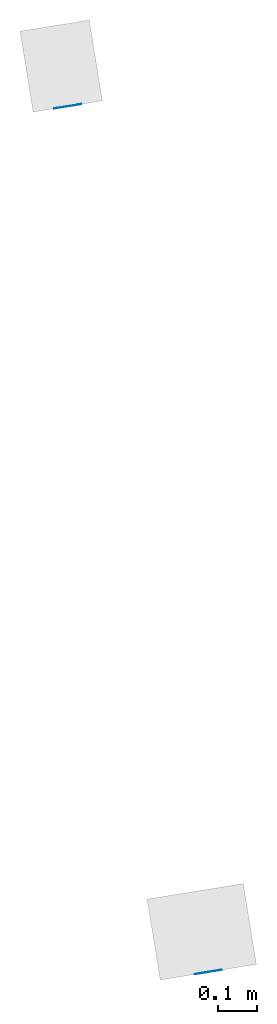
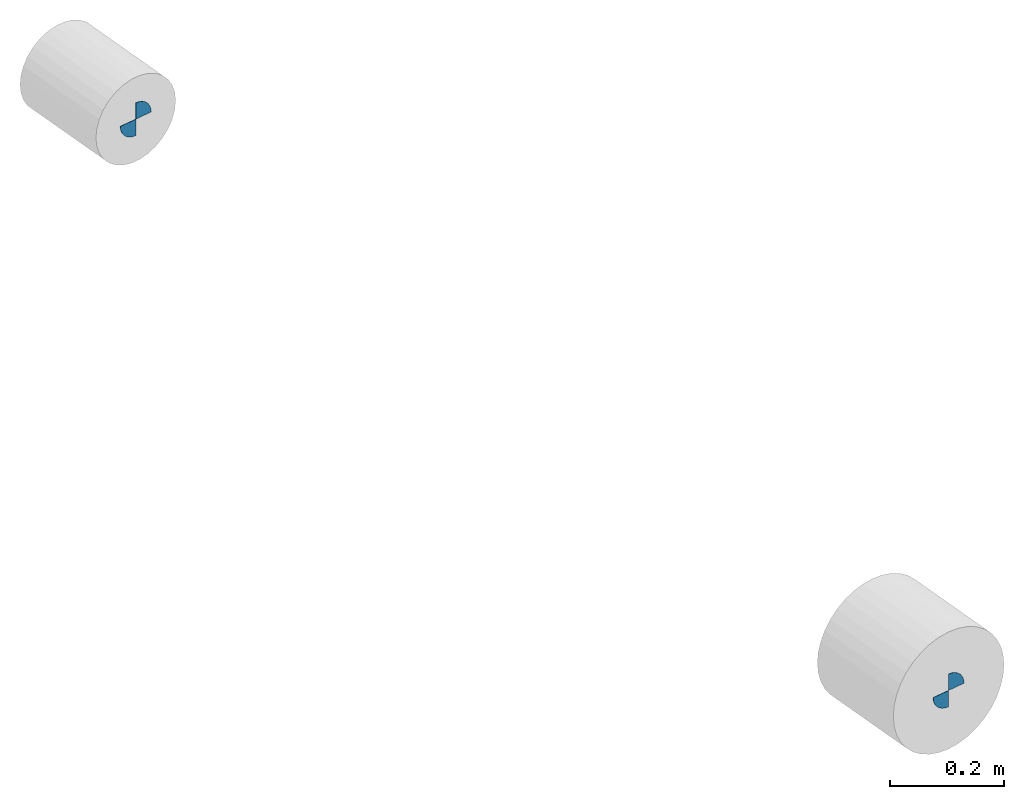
# One storey, part 1 of 2: 2 slabs.
"""IFC2X3 building model written with IfcOpenShell, lengths in millimetres."""

import ifcopenshell
import ifcopenshell.guid

model = None  # the IFC model being written
_history = None  # IfcOwnerHistory: only IFC2X3 demands one
_inside = {}  # id of a spatial element -> (the spatial element, [elements in it])
_under = {}  # id of a project, library or spatial element -> (it, [spatial elements below it])
_declared = {}  # id of a project -> (the project, [libraries it declares])
_typed = {}  # id of a type object -> (the type object, [elements of that type])
_made_of = {}  # id of a material, layer set ... -> (it, [elements and type objects made of it])


def new_model(schema):
    """Start an empty IFC model of exactly this schema.

    Asked for "IFC4X3", IfcOpenShell would pick the latest addendum, in which some entities
    have other attributes; the version numbers below select the first issue.
    IFC2X3 requires an IfcOwnerHistory on every rooted entity: one is made here for all.
    """
    global model, _history
    if schema == "IFC4X3":
        model = ifcopenshell.file(schema_version=(4, 3, 0, 0))
    else:
        model = ifcopenshell.file(schema=schema)
    _inside.clear()
    _under.clear()
    _declared.clear()
    _typed.clear()
    _made_of.clear()
    _history = None
    if model.schema == "IFC2X3":
        org = make("IfcOrganization", Name="unknown")
        user = make(
            "IfcPersonAndOrganization",
            ThePerson=make("IfcPerson", FamilyName="unknown"),
            TheOrganization=org,
        )
        app = make(
            "IfcApplication",
            ApplicationDeveloper=org,
            Version="unknown",
            ApplicationFullName="unknown",
            ApplicationIdentifier="unknown",
        )
        _history = make(
            "IfcOwnerHistory",
            OwningUser=user,
            OwningApplication=app,
            ChangeAction="ADDED",
            CreationDate=0,
        )
    return model


def make(cls, **values):
    """One entity of the class cls with the attributes given. An attribute that is None is left unset."""
    return model.create_entity(
        cls, **{name: value for name, value in values.items() if value is not None}
    )


def entity(cls, *values):
    """Any entity or typed value of the class cls, its attributes in the order of the schema. None: left unset."""
    e = model.create_entity(cls)
    for i, value in enumerate(values):
        if value is not None:
            e[i] = value
    return e


def rooted(cls, **values):
    """An entity with a GlobalId (a new one), such as an element, a storey or a relation."""
    return make(cls, GlobalId=ifcopenshell.guid.new(), OwnerHistory=_history, **values)


def si_unit(unit_type, name, prefix=None):
    """IfcSIUnit, for example si_unit("LENGTHUNIT", "METRE", prefix="MILLI")."""
    return make("IfcSIUnit", UnitType=unit_type, Prefix=prefix, Name=name)


def converted_unit(unit_type, name, factor, base, dimensions=None, offset=None):
    """IfcConversionBasedUnit, such as the inch: factor (a typed value) times the base unit."""
    return make(
        "IfcConversionBasedUnit"
        if offset is None
        else "IfcConversionBasedUnitWithOffset",
        ConversionOffset=offset,
        Dimensions=None
        if dimensions is None
        else entity("IfcDimensionalExponents", *dimensions),
        UnitType=unit_type,
        Name=name,
        ConversionFactor=make(
            "IfcMeasureWithUnit", ValueComponent=factor, UnitComponent=base
        ),
    )


def derived_unit(unit_type, elements):
    """IfcDerivedUnit: a product of units, each with its exponent."""
    return make(
        "IfcDerivedUnit",
        Elements=[
            make("IfcDerivedUnitElement", Unit=unit, Exponent=power)
            for unit, power in elements
        ],
        UnitType=unit_type,
    )


def assignment(units):
    """IfcUnitAssignment: the units of a project."""
    return None if units is None else make("IfcUnitAssignment", Units=units)


def point(xyz):
    """IfcCartesianPoint."""
    return None if xyz is None else make("IfcCartesianPoint", Coordinates=xyz)


def direction(xyz):
    """IfcDirection."""
    return None if xyz is None else make("IfcDirection", DirectionRatios=xyz)


def frame(location, z_axis=None, x_axis=None):
    """IfcAxis2Placement3D, a coordinate frame: its origin and axes. An axis left out is left unset."""
    return make(
        "IfcAxis2Placement3D",
        Location=point(location),
        Axis=direction(z_axis),
        RefDirection=direction(x_axis),
    )


def frame_2d(location, x_axis=None):
    """IfcAxis2Placement2D, a coordinate frame in the plane: its origin and x axis."""
    return make(
        "IfcAxis2Placement2D", Location=point(location), RefDirection=direction(x_axis)
    )


def origin():
    """The frame at (0, 0, 0) with its axes left unset."""
    return frame((0.0, 0.0, 0.0))


def origin_with_axes():
    """The frame at (0, 0, 0) with the z axis (0, 0, 1) and the x axis (1, 0, 0) written out."""
    return frame((0.0, 0.0, 0.0), z_axis=(0.0, 0.0, 1.0), x_axis=(1.0, 0.0, 0.0))


def place(relative_to, where):
    """IfcLocalPlacement: puts the frame where relative to a parent placement (None: the world)."""
    return make(
        "IfcLocalPlacement", PlacementRelTo=relative_to, RelativePlacement=where
    )


def context(
    kind, dimensions, precision=None, world=None, true_north=None, identifier=None
):
    """IfcGeometricRepresentationContext, for example the 3D "Model" context."""
    return make(
        "IfcGeometricRepresentationContext",
        ContextIdentifier=identifier,
        ContextType=kind,
        CoordinateSpaceDimension=dimensions,
        Precision=precision,
        WorldCoordinateSystem=world,
        TrueNorth=true_north,
    )


def subcontext(parent, identifier, kind, view, scale=None):
    """IfcGeometricRepresentationSubContext, for example "Body" below "Model"."""
    return make(
        "IfcGeometricRepresentationSubContext",
        ContextIdentifier=identifier,
        ContextType=kind,
        ParentContext=parent,
        TargetScale=scale,
        TargetView=view,
    )


def project(units=None, contexts=None):
    """IfcProject with its units and contexts."""
    return rooted(
        "IfcProject",
        Name="project",
        RepresentationContexts=contexts,
        UnitsInContext=assignment(units),
    )


def spatial(cls, under=None, at=None, **own):
    """A site, building, storey or space (cls), placed at a placement, below another one or the project."""
    s = rooted(cls, ObjectPlacement=at, **own)
    if under is not None:
        _under.setdefault(under.id(), (under, []))[1].append(s)
    return s


def polyline(points):
    """IfcPolyline through the points."""
    return make("IfcPolyline", Points=[point(p) for p in points])


def circle_curve(where, radius):
    """IfcCircle in the frame where."""
    return make("IfcCircle", Position=where, Radius=radius)


def parameter(value):
    """IfcParameterValue: where a trimmed curve begins or ends, as a parameter of its basis curve."""
    return model.create_entity("IfcParameterValue", value)


def trimmed(basis, trim1, trim2, sense, master):
    """IfcTrimmedCurve: the piece of a basis curve between two trims."""
    return make(
        "IfcTrimmedCurve",
        BasisCurve=basis,
        Trim1=trim1,
        Trim2=trim2,
        SenseAgreement=sense,
        MasterRepresentation=master,
    )


def segment(curve, same_sense, transition):
    """IfcCompositeCurveSegment."""
    return make(
        "IfcCompositeCurveSegment",
        Transition=transition,
        SameSense=same_sense,
        ParentCurve=curve,
    )


def composite_curve(segments, self_intersect=None):
    """IfcCompositeCurve: segments joined end to end."""
    return make("IfcCompositeCurve", Segments=segments, SelfIntersect=self_intersect)


def outline(outer, holes=None, kind="AREA"):
    """IfcArbitraryClosedProfileDef: a profile drawn as a closed curve; with holes, ...WithVoids."""
    if holes is None:
        return make("IfcArbitraryClosedProfileDef", ProfileType=kind, OuterCurve=outer)
    return make(
        "IfcArbitraryProfileDefWithVoids",
        ProfileType=kind,
        OuterCurve=outer,
        InnerCurves=holes,
    )


def extrude(swept, where, along, depth):
    """IfcExtrudedAreaSolid: the profile swept, set in the frame where, extruded along a direction by depth."""
    return make(
        "IfcExtrudedAreaSolid",
        SweptArea=swept,
        Position=where,
        ExtrudedDirection=direction(along),
        Depth=depth,
    )


def shape(context_of_items, identifier, shape_type, items):
    """IfcShapeRepresentation: the items that make up one representation, for example the "Body"."""
    return make(
        "IfcShapeRepresentation",
        ContextOfItems=context_of_items,
        RepresentationIdentifier=identifier,
        RepresentationType=shape_type,
        Items=items,
    )


def material(Name=None, Category=None):
    """IfcMaterial."""
    return make("IfcMaterial", Name=Name, Category=Category)


def made_of(thing, what):
    """Note that an element or type object is made of a material, layer set ...; save() writes the relation."""
    if what is not None:
        _made_of.setdefault(what.id(), (what, []))[1].append(thing)
    return thing


def type_object(cls, material=None, **own):
    """A type object (cls), such as IfcWallType, which elements share."""
    return made_of(rooted(cls, **own), material)


def element(
    cls,
    number,
    at=None,
    inside=None,
    cuts=None,
    type_object=None,
    material=None,
    context=None,
    identifier="Body",
    shape_type=None,
    held_by="IfcProductDefinitionShape",
    body=None,
    shapes=None,
    **own,
):
    """One element of the class cls, such as IfcWall. Its Tag is "e" and its number.

    at: its placement. inside: the storey or other place that contains it. cuts: it is an
    opening in that element (IfcRelVoidsElement). A single representation is given by context,
    identifier, shape_type and body (its items); several are given by shapes. held_by: the class
    of the entity that holds the representations. save() writes the other relations.
    """
    e = rooted(cls, Tag="e%d" % number, ObjectPlacement=at, **own)
    if body is not None:
        shapes = [shape(context, identifier, shape_type, body)]
    if shapes is not None:
        e.Representation = make(held_by, Representations=shapes)
    if inside is not None:
        _inside.setdefault(inside.id(), (inside, []))[1].append(e)
    if cuts is not None:
        rooted(
            "IfcRelVoidsElement", RelatingBuildingElement=cuts, RelatedOpeningElement=e
        )
    if type_object is not None:
        _typed.setdefault(type_object.id(), (type_object, []))[1].append(e)
    return made_of(e, material)


def aggregate(whole, parts):
    """IfcRelAggregates: a whole, such as a stair, and the parts it consists of."""
    return rooted("IfcRelAggregates", RelatingObject=whole, RelatedObjects=parts)


def save(model, path):
    """Write the relations noted so far, then the file.

    IfcRelAggregates (storeys below a building ...), IfcRelContainedInSpatialStructure (elements
    in a storey), IfcRelDefinesByType, IfcRelAssociatesMaterial and IfcRelDeclares: one each for
    every whole, place, type object, material and project.
    """
    for whole, parts in _under.values():
        aggregate(whole, parts)
    for where, things in _inside.values():
        rooted(
            "IfcRelContainedInSpatialStructure",
            RelatedElements=things,
            RelatingStructure=where,
        )
    for kind, things in _typed.values():
        rooted("IfcRelDefinesByType", RelatedObjects=things, RelatingType=kind)
    for what, things in _made_of.values():
        rooted("IfcRelAssociatesMaterial", RelatedObjects=things, RelatingMaterial=what)
    for by, libraries in _declared.values():
        rooted("IfcRelDeclares", RelatingContext=by, RelatedDefinitions=libraries)
    model.write(path)


model = new_model("IFC2X3")

# Units and contexts
plan_context = context("Plan", 3, precision=1e-05, world=origin_with_axes())
model_context = context("Model", 3, precision=0.01, world=origin(), true_north=direction((6.12323399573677e-17, 1.0)))
body_context = subcontext(model_context, "Body", "Model", "MODEL_VIEW")
ifc_project = project(units=[converted_unit("PLANEANGLEUNIT", "DEGREE", entity("IfcPositiveLengthMeasure", 0.0174532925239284), si_unit("PLANEANGLEUNIT", "RADIAN"), dimensions=[0, 0, 0, 0, 0, 0, 0]), si_unit("AREAUNIT", "SQUARE_METRE"), si_unit("LENGTHUNIT", "METRE", prefix="MILLI"), si_unit("MASSUNIT", "GRAM", prefix="KILO"), si_unit("POWERUNIT", "WATT"), si_unit("PRESSUREUNIT", "PASCAL", prefix="KILO"), si_unit("FORCEUNIT", "NEWTON", prefix="KILO"), si_unit("ELECTRICVOLTAGEUNIT", "VOLT"), si_unit("ELECTRICCURRENTUNIT", "AMPERE"), si_unit("THERMODYNAMICTEMPERATUREUNIT", "DEGREE_CELSIUS"), si_unit("TIMEUNIT", "SECOND"), si_unit("VOLUMEUNIT", "CUBIC_METRE"), derived_unit("LINEARVELOCITYUNIT", [(si_unit("LENGTHUNIT", "METRE"), 1), (si_unit("TIMEUNIT", "SECOND"), -1)]), derived_unit("VOLUMETRICFLOWRATEUNIT", [(si_unit("VOLUMEUNIT", "CUBIC_METRE"), 1), (si_unit("TIMEUNIT", "SECOND"), -1)]), derived_unit("THERMALTRANSMITTANCEUNIT", [(si_unit("POWERUNIT", "WATT"), 1), (si_unit("THERMODYNAMICTEMPERATUREUNIT", "KELVIN"), -1), (si_unit("AREAUNIT", "SQUARE_METRE"), -1)]), derived_unit("SOUNDPRESSUREUNIT", [(si_unit("PRESSUREUNIT", "PASCAL"), 1)])], contexts=[model_context, plan_context])

# Site, building, storey
site_placement = place(None, frame((-0.00071070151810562, 0.00438415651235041, 0.0), z_axis=(0.0, 0.0, 1.0), x_axis=(-0.160236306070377, 0.987078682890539, 0.0)))
site = spatial("IfcSite", under=ifc_project, at=site_placement, Name="Default", CompositionType="ELEMENT")
building_placement = place(site_placement, origin_with_axes())
building = spatial("IfcBuilding", under=site, at=building_placement, CompositionType="ELEMENT")
storey_placement = place(building_placement, frame((0.0, 0.0, 42100.0000000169), z_axis=(0.0, 0.0, 1.0), x_axis=(1.0, 0.0, 0.0)))
storey = spatial("IfcBuildingStorey", under=building, at=storey_placement, Name="Nivå A", CompositionType="ELEMENT", Elevation=42100.0000000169)

# Slabs
ifc_material = material(Name="Black")
slab_type = type_object("IfcSlabType", Name="SurveyMarker:Custom", PredefinedType="BASESLAB", material=ifc_material)
slab_1_placement = place(storey_placement, origin_with_axes())
element("IfcSlab", 1, at=slab_1_placement, inside=storey, type_object=slab_type, Name="SurveyMarker:Custom", ObjectType="SurveyMarker:Custom", PredefinedType="BASESLAB", context=body_context, shape_type="SweptSolid", body=[
    extrude(outline(composite_curve([segment(polyline([(-11.6666666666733, -11.6666666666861), (23.3333333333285, -11.6666666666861)]), True, "CONTINUOUS"), segment(trimmed(circle_curve(frame_2d((-11.6666666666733, -11.6666666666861), x_axis=(0.0, 1.0)), 35.0), [parameter(269.999999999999)], [parameter(359.999999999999)], True, "PARAMETER"), True, "CONTINUOUS"), segment(polyline([(-11.6666666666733, 23.3333333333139), (-11.6666666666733, -11.6666666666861)]), True, "CONTINUOUS")], self_intersect=False)), frame((766674.11965436, -504774.438601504, 15941.6666666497), z_axis=(1.0, 0.0, 0.0), x_axis=(0.0, 0.0, 1.0)), (0.0, 0.0, 1.0), 0.800000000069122),
    extrude(outline(composite_curve([segment(polyline([(-11.6666666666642, -11.6666666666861), (23.3333333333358, -11.6666666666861)]), True, "CONTINUOUS"), segment(trimmed(circle_curve(frame_2d((-11.6666666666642, -11.6666666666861), x_axis=(0.0, 1.0)), 35.0), [parameter(269.999999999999)], [parameter(359.999999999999)], True, "PARAMETER"), True, "CONTINUOUS"), segment(polyline([(-11.6666666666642, 23.3333333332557), (-11.6666666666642, -11.6666666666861)]), True, "CONTINUOUS")], self_intersect=False)), frame((766674.11965436, -504751.105268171, 15918.3333333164), z_axis=(1.0, 0.0, 0.0), x_axis=(0.0, 0.0, -1.0)), (0.0, 0.0, 1.0), 0.800000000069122),
])
slab_2_placement = place(storey_placement, origin_with_axes())
element("IfcSlab", 2, at=slab_2_placement, inside=storey, type_object=slab_type, Name="SurveyMarker:Custom", ObjectType="SurveyMarker:Custom", PredefinedType="BASESLAB", context=body_context, shape_type="SweptSolid", body=[
    extrude(outline(composite_curve([segment(polyline([(-11.6666666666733, -11.6666666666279), (23.3333333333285, -11.6666666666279)]), True, "CONTINUOUS"), segment(trimmed(circle_curve(frame_2d((-11.6666666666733, -11.6666666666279), x_axis=(0.0, 1.0)), 35.0), [parameter(269.999999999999)], [parameter(359.999999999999)], True, "PARAMETER"), True, "CONTINUOUS"), segment(polyline([(-11.6666666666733, 23.3333333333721), (-11.6666666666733, -11.6666666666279)]), True, "CONTINUOUS")], self_intersect=False)), frame((768922.619644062, -504774.438601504, 15941.6666666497), z_axis=(1.0, 0.0, 0.0), x_axis=(0.0, 0.0, 1.0)), (0.0, 0.0, 1.0), 0.800000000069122),
    extrude(outline(composite_curve([segment(polyline([(-11.6666666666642, -11.6666666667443), (23.3333333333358, -11.6666666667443)]), True, "CONTINUOUS"), segment(trimmed(circle_curve(frame_2d((-11.6666666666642, -11.6666666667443), x_axis=(0.0, 1.0)), 35.0), [parameter(269.999999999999)], [parameter(359.999999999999)], True, "PARAMETER"), True, "CONTINUOUS"), segment(polyline([(-11.6666666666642, 23.3333333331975), (-11.6666666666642, -11.6666666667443)]), True, "CONTINUOUS")], self_intersect=False)), frame((768922.619644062, -504751.105268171, 15918.3333333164), z_axis=(1.0, 0.0, 0.0), x_axis=(0.0, 0.0, -1.0)), (0.0, 0.0, 1.0), 0.800000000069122),
])

save(model, "model.ifc")
